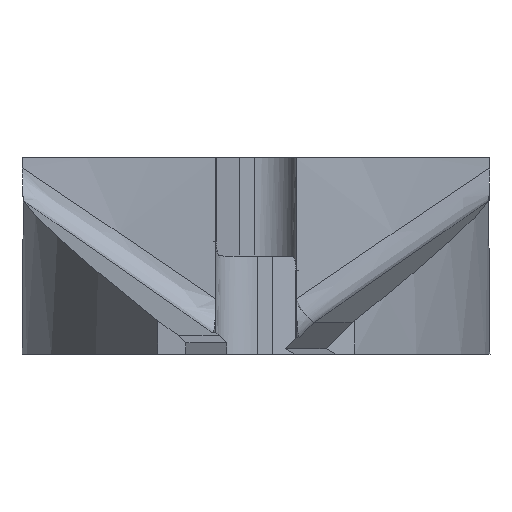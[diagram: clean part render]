
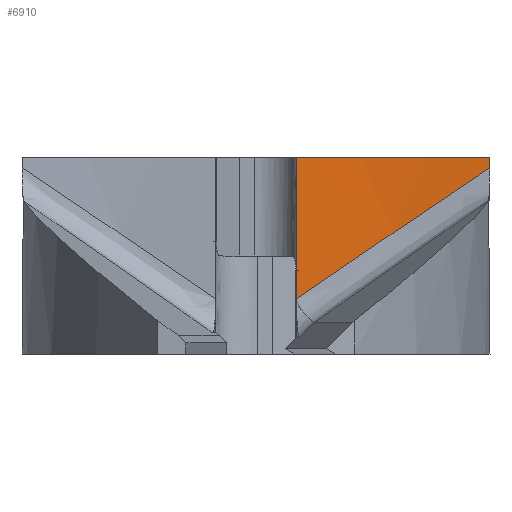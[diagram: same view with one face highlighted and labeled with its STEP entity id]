
A CAD part, left-side view. The second image highlights one B-rep face of the part: STEP entity #6910.
In plain terms, the highlighted cylindrical face has radius 37.5 mm (diameter 75 mm), a partial arc.
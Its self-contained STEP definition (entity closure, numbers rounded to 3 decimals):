
#107 = VECTOR ( 'NONE', #8817, 1000. ) ;
#127 = AXIS2_PLACEMENT_3D ( 'NONE', #442, #6099, #1257 ) ;
#442 = CARTESIAN_POINT ( 'NONE',  ( -47.512, 0., 7. ) ) ;
#479 = CARTESIAN_POINT ( 'NONE',  ( -10.205, -3.796, 4.288 ) ) ;
#496 = VERTEX_POINT ( 'NONE', #2613 ) ;
#931 = ORIENTED_EDGE ( 'NONE', *, *, #9104, .T. ) ;
#1006 = LINE ( 'NONE', #5691, #9386 ) ;
#1257 = DIRECTION ( 'NONE',  ( 1., 0., 0. ) ) ;
#1293 = CARTESIAN_POINT ( 'NONE',  ( -10.208, -3.829, 4.31 ) ) ;
#1350 = CARTESIAN_POINT ( 'NONE',  ( -10.014, -0.4, 1.973 ) ) ;
#1747 = AXIS2_PLACEMENT_3D ( 'NONE', #4413, #9250, #2855 ) ;
#2039 = CARTESIAN_POINT ( 'NONE',  ( -10.014, -0.4, 1.973 ) ) ;
#2094 = CARTESIAN_POINT ( 'NONE',  ( -10.209, -3.837, 4.316 ) ) ;
#2279 = ORIENTED_EDGE ( 'NONE', *, *, #7120, .F. ) ;
#2613 = CARTESIAN_POINT ( 'NONE',  ( -10.72, -7.252, 6.643 ) ) ;
#2855 = DIRECTION ( 'NONE',  ( 1., 0., 0. ) ) ;
#2889 = CARTESIAN_POINT ( 'NONE',  ( -10.05, -1.781, 2.915 ) ) ;
#2917 = CARTESIAN_POINT ( 'NONE',  ( -10.521, -6.24, 5.953 ) ) ;
#3005 = LINE ( 'NONE', #8005, #107 ) ;
#3053 = B_SPLINE_CURVE_WITH_KNOTS ( 'NONE', 3,
 ( #2039, #6108, #2889, #8576, #3695, #9389, #4520, #10199, #5335, #479, #6138, #1293, #6964, #2094, #7787, #2917, #8602 ),
 .UNSPECIFIED., .F., .F.,
 ( 4, 2, 2, 1, 1, 1, 1, 1, 2, 2, 4 ),
 ( 0., 0.25, 0.375, 0.437, 0.469, 0.484, 0.492, 0.496, 0.498, 0.5, 1. ),
 .UNSPECIFIED. ) ;
#3479 = ORIENTED_EDGE ( 'NONE', *, *, #6922, .F. ) ;
#3665 = CIRCLE ( 'NONE', #127, 37.5 ) ;
#3695 = CARTESIAN_POINT ( 'NONE',  ( -10.124, -2.909, 3.683 ) ) ;
#4314 = VERTEX_POINT ( 'NONE', #1350 ) ;
#4413 = CARTESIAN_POINT ( 'NONE',  ( -47.512, 0., 1.943 ) ) ;
#4520 = CARTESIAN_POINT ( 'NONE',  ( -10.172, -3.46, 4.058 ) ) ;
#4909 = ORIENTED_EDGE ( 'NONE', *, *, #9310, .T. ) ;
#5335 = CARTESIAN_POINT ( 'NONE',  ( -10.2, -3.75, 4.256 ) ) ;
#5534 = CARTESIAN_POINT ( 'NONE',  ( -10.014, -0.4, 7. ) ) ;
#5691 = CARTESIAN_POINT ( 'NONE',  ( -10.72, -7.252, 3.5 ) ) ;
#5820 = FACE_OUTER_BOUND ( 'NONE', #7258, .T. ) ;
#6099 = DIRECTION ( 'NONE',  ( 0., 0., -1. ) ) ;
#6108 = CARTESIAN_POINT ( 'NONE',  ( -10.022, -1.13, 2.471 ) ) ;
#6138 = CARTESIAN_POINT ( 'NONE',  ( -10.207, -3.819, 4.304 ) ) ;
#6495 = DIRECTION ( 'NONE',  ( 0., 0., -1. ) ) ;
#6538 = CARTESIAN_POINT ( 'NONE',  ( -10.72, -7.252, 7. ) ) ;
#6910 = ADVANCED_FACE ( 'NONE', ( #5820 ), #9897, .F. ) ;
#6922 = EDGE_CURVE ( 'NONE', #9778, #8565, #3665, .T. ) ;
#6964 = CARTESIAN_POINT ( 'NONE',  ( -10.209, -3.836, 4.315 ) ) ;
#7120 = EDGE_CURVE ( 'NONE', #8565, #496, #1006, .T. ) ;
#7258 = EDGE_LOOP ( 'NONE', ( #2279, #3479, #4909, #931 ) ) ;
#7787 = CARTESIAN_POINT ( 'NONE',  ( -10.339, -5.104, 5.179 ) ) ;
#8005 = CARTESIAN_POINT ( 'NONE',  ( -10.014, -0.4, 4.472 ) ) ;
#8565 = VERTEX_POINT ( 'NONE', #6538 ) ;
#8576 = CARTESIAN_POINT ( 'NONE',  ( -10.104, -2.642, 3.501 ) ) ;
#8602 = CARTESIAN_POINT ( 'NONE',  ( -10.72, -7.252, 6.643 ) ) ;
#8817 = DIRECTION ( 'NONE',  ( 0., 0., -1. ) ) ;
#9104 = EDGE_CURVE ( 'NONE', #4314, #496, #3053, .T. ) ;
#9250 = DIRECTION ( 'NONE',  ( 0., 0., 1. ) ) ;
#9310 = EDGE_CURVE ( 'NONE', #9778, #4314, #3005, .T. ) ;
#9386 = VECTOR ( 'NONE', #6495, 1000. ) ;
#9389 = CARTESIAN_POINT ( 'NONE',  ( -10.156, -3.281, 3.937 ) ) ;
#9778 = VERTEX_POINT ( 'NONE', #5534 ) ;
#9897 = CYLINDRICAL_SURFACE ( 'NONE', #1747, 37.5 ) ;
#10199 = CARTESIAN_POINT ( 'NONE',  ( -10.191, -3.655, 4.192 ) ) ;
